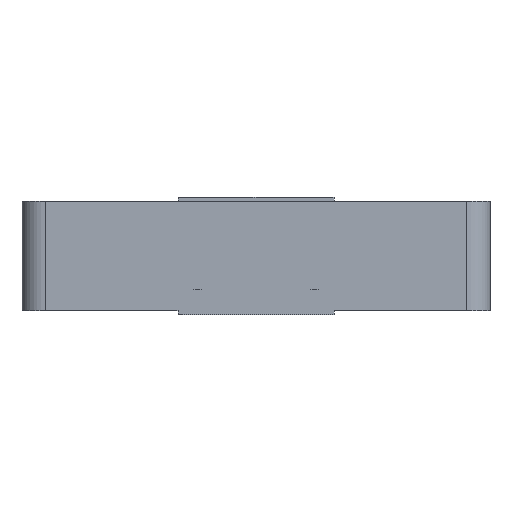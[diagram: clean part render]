
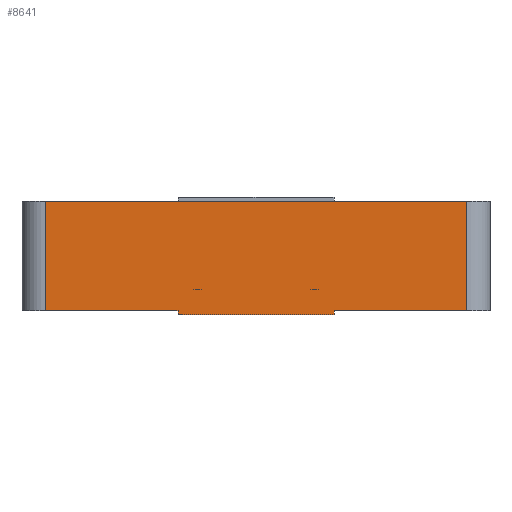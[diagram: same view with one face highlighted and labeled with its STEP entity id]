
A CAD part, front view. The second image highlights one B-rep face of the part: STEP entity #8641.
In plain terms, the highlighted planar face has unit normal (0, -1, 0).
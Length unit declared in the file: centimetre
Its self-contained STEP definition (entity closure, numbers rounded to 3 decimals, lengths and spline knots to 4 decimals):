
#1334=PLANE('',#9274);
#1552=VECTOR('',#10150,1.);
#1592=VECTOR('',#10289,1.);
#1603=VECTOR('',#10307,1.);
#1605=VECTOR('',#10313,1.);
#1729=VECTOR('',#10742,1.);
#1731=VECTOR('',#10745,1.);
#1732=VECTOR('',#10747,1.);
#2182=LINE('',#12437,#1552);
#2222=LINE('',#12597,#1592);
#2233=LINE('',#12623,#1603);
#2235=LINE('',#12629,#1605);
#2359=LINE('',#13056,#1729);
#2361=LINE('',#13060,#1731);
#2362=LINE('',#13062,#1732);
#2846=VERTEX_POINT('',#12436);
#2847=VERTEX_POINT('',#12438);
#2913=VERTEX_POINT('',#12596);
#2914=VERTEX_POINT('',#12598);
#2926=VERTEX_POINT('',#12628);
#2955=VERTEX_POINT('',#12686);
#3055=VERTEX_POINT('',#13055);
#3056=VERTEX_POINT('',#13059);
#4079=EDGE_CURVE('',#2847,#2846,#2182,.T.);
#4157=EDGE_CURVE('',#2914,#2913,#2222,.T.);
#4171=EDGE_CURVE('',#2847,#2913,#2233,.T.);
#4174=EDGE_CURVE('',#2926,#2846,#2235,.T.);
#4204=EDGE_CURVE('',#2926,#2955,#2222,.T.);
#4383=EDGE_CURVE('',#2914,#3055,#2359,.T.);
#4385=EDGE_CURVE('',#2955,#3056,#2361,.T.);
#4386=EDGE_CURVE('',#3056,#3055,#2362,.T.);
#5961=ORIENTED_EDGE('',*,*,#4171,.F.);
#5962=ORIENTED_EDGE('',*,*,#4079,.T.);
#5963=ORIENTED_EDGE('',*,*,#4174,.F.);
#5964=ORIENTED_EDGE('',*,*,#4204,.T.);
#5965=ORIENTED_EDGE('',*,*,#4385,.T.);
#5966=ORIENTED_EDGE('',*,*,#4386,.T.);
#5967=ORIENTED_EDGE('',*,*,#4383,.F.);
#5968=ORIENTED_EDGE('',*,*,#4157,.T.);
#7510=EDGE_LOOP('',(#5961,#5962,#5963,#5964,#5965,#5966,#5967,#5968));
#8125=FACE_BOUND('',#7510,.T.);
#8641=ADVANCED_FACE('',(#8125),#1334,.T.);
#9274=AXIS2_PLACEMENT_3D('',#13074,#10757,$);
#10150=DIRECTION('',(-1.,0.,0.));
#10289=DIRECTION('',(1.,0.,0.));
#10307=DIRECTION('',(0.,0.,-1.));
#10313=DIRECTION('',(0.,0.,1.));
#10742=DIRECTION('',(0.,0.,-1.));
#10745=DIRECTION('',(0.,0.,-1.));
#10747=DIRECTION('',(1.,0.,0.));
#10757=DIRECTION('',(0.,-1.,0.));
#12436=CARTESIAN_POINT('',(-5.4,-6.,2.8));
#12437=CARTESIAN_POINT('',(-6.,-6.,2.8));
#12438=CARTESIAN_POINT('',(5.4,-6.,2.8));
#12596=CARTESIAN_POINT('',(5.4,-6.,0.));
#12597=CARTESIAN_POINT('',(-6.,-6.,0.));
#12598=CARTESIAN_POINT('',(2.,-6.,0.));
#12623=CARTESIAN_POINT('',(5.4,-6.,0.));
#12628=CARTESIAN_POINT('',(-5.4,-6.,0.));
#12629=CARTESIAN_POINT('',(-5.4,-6.,0.));
#12686=CARTESIAN_POINT('',(-2.,-6.,0.));
#13055=CARTESIAN_POINT('',(2.,-6.,-0.1));
#13056=CARTESIAN_POINT('',(2.,-6.,0.));
#13059=CARTESIAN_POINT('',(-2.,-6.,-0.1));
#13060=CARTESIAN_POINT('',(-2.,-6.,0.));
#13062=CARTESIAN_POINT('',(2.,-6.,-0.1));
#13074=CARTESIAN_POINT('',(0.,-6.,0.));
